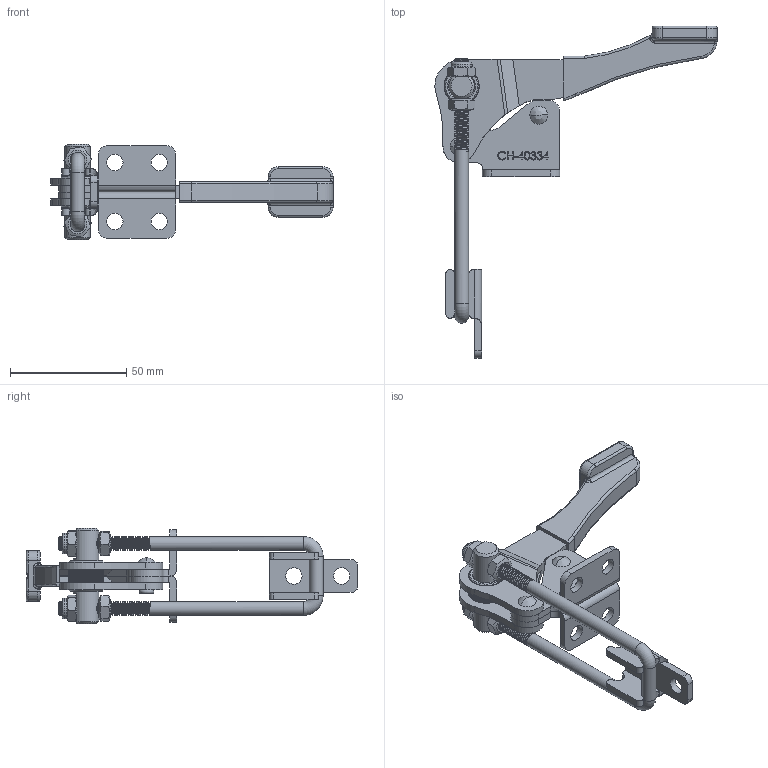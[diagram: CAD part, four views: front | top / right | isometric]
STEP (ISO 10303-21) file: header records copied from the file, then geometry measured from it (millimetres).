
FILE_DESCRIPTION(/* description */ ('STEP AP203'),/* implementation_level */ '2;1');
FILE_NAME(/* name */ 'D:\Vault_2016\Projekty\Clamptek\STRONA\Latch type clamp\CH-40334\CH-40334.stp',/* time_stamp */ '2019-01-11T16:32:50+01:00',/* author */ ('Łukasz'),/* organization */ ('Î¢ÈíÖÐ¹ú'),/* preprocessor_version */ 'ST-DEVELOPER v17.2',/* originating_system */ 'Autodesk Inventor 2019',/* authorisation */ '');
FILE_SCHEMA (('AUTOMOTIVE_DESIGN { 1 0 10303 214 3 1 1 }'));
Products named in the file (11): CH-40334; 08_Ä¬ÈÏ; 40334-04_Ä¬ÈÏ; 40334-03_Ä¬ÈÏ; 40334-01_Ä¬ÈÏ; 07_Ä¬ÈÏ; M6_Ä¬ÈÏ; 40334-05_Ä¬ÈÏ; M6 LOCK NUT_Ä¬ÈÏ; 40334-06_Ä¬ÈÏ; 40334-02_Ä¬ÈÏ
Assembly tree (12 placements, depth 2):
  CH-40334
    M6 LOCK NUT_Ä¬ÈÏ  x2
    08_Ä¬ÈÏ
    40334-04_Ä¬ÈÏ
    M6_Ä¬ÈÏ  x2
    40334-03_Ä¬ÈÏ
    40334-01_Ä¬ÈÏ
    07_Ä¬ÈÏ
    40334-05_Ä¬ÈÏ
    40334-06_Ä¬ÈÏ
    40334-02_Ä¬ÈÏ
Bounding box: 121.53 x 142.94 x 41.3 mm (x, y, z)
Volume: 44175.4 mm3; surface area: 31404.4 mm2
Topology: 13 solids, 13 shells, 1155 faces, 3046 edges, 1935 vertices
Faces by surface type: plane 529, cylinder 341, bspline 211, cone 46, torus 26, sphere 2
Full cylindrical faces by diameter (mm): 0.916 x1, 1 x1, 3.299 x1, 3.455 x1, 4.8 x26, 6 x79, 6.2 x2, 7 x6, 9 x2, 11 x2, 15 x2
Entity records: 55030 total; most frequent: CARTESIAN_POINT 28762, ORIENTED_EDGE 5776, DIRECTION 4800, EDGE_CURVE 2888, VERTEX_POINT 1835, AXIS2_PLACEMENT_3D 1659, LINE 1482, VECTOR 1482
